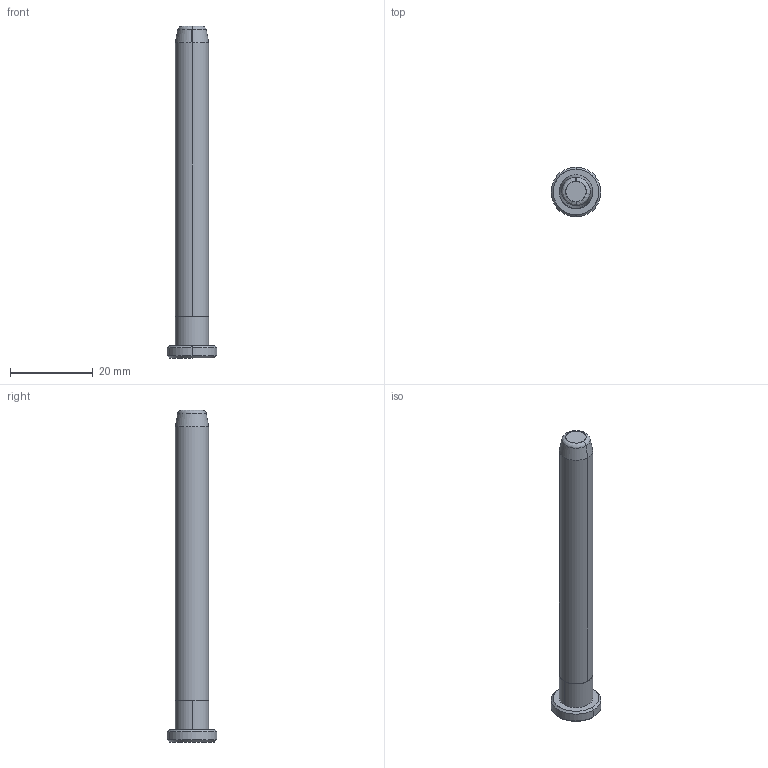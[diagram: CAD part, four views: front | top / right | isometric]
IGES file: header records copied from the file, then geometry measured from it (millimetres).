
Start section: START RECORD GO HERE.
Global section: file name: B80808080.igs; native system: DASSAULT SYSTEMES CATIA V5 R20 - www.3ds.com; preprocessor: CATIA Version 5 Release 20 ; author: Utente; organization: NB04-ASUS; date: 20200419.165655; units: millimetre
Bounding box: 12 x 12 x 80 mm (x, y, z)
Surface area: 2222.4 mm2 (no closed solid volume)
Topology: 0 solids, 0 shells, 20 faces, 80 edges, 80 vertices
Faces by surface type: revolution 16, plane 4
